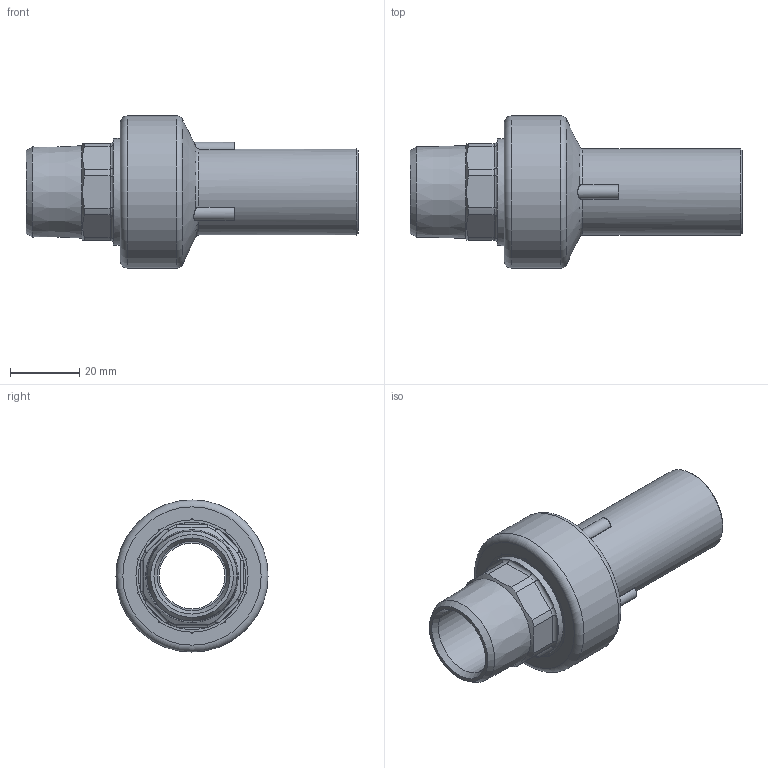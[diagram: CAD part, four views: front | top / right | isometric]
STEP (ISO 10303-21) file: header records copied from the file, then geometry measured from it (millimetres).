
FILE_DESCRIPTION(/* description */ ('Unknown'),/* implementation_level */ '2;1');
FILE_NAME(/* name */ 'RTOMP025C',/* time_stamp */ '2021-03-01T17:08:17+01:00',/* author */ ('Unknown'),/* organization */ ('Unknown'),/* preprocessor_version */ 'ST-DEVELOPER v16.7',/* originating_system */ 'Solid Edge',/* authorisation */ 'Unknown');
FILE_SCHEMA (('AUTOMOTIVE_DESIGN {1 0 10303 214 3 1 1}'));
Length unit declared in the file: millimetre
Products named in the file (3): RTOMP025C; Parte PE 025; IOM025C
Assembly tree (2 placements, depth 2):
  RTOMP025C
    Parte PE 025
    IOM025C
Bounding box: 96 x 44 x 44 mm (x, y, z)
Volume: 41361.5 mm3; surface area: 23664.5 mm2
Topology: 2 solids, 2 shells, 438 faces, 1175 edges, 753 vertices
Faces by surface type: cylinder 178, cone 86, plane 73, bspline 63, torus 38
Full cylindrical faces by diameter (mm): 19 x1, 20 x1, 23.5 x2, 25 x1, 26.3 x2, 26.5 x2, 31 x1, 33 x2, 36 x4, 44 x1
Entity records: 17151 total; most frequent: CARTESIAN_POINT 5833, ORIENTED_EDGE 2256, DIRECTION 1700, EDGE_CURVE 1128, AXIS2_PLACEMENT_3D 766, VERTEX_POINT 742, B_SPLINE_CURVE_WITH_KNOTS 572, EDGE_LOOP 490
